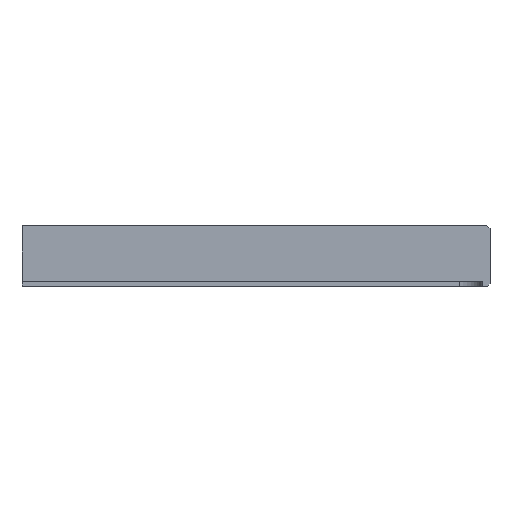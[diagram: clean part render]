
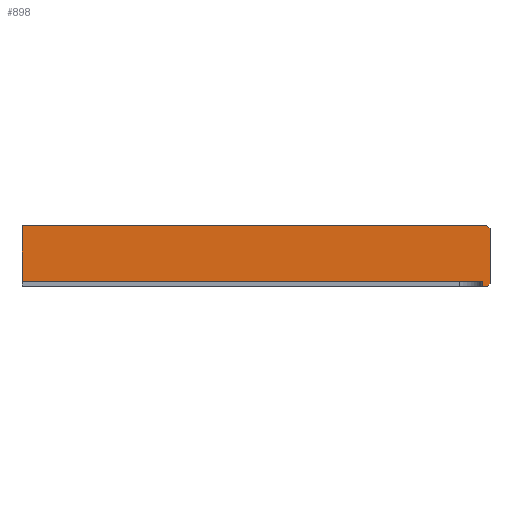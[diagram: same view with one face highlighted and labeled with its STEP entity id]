
A CAD part, front view. The second image highlights one B-rep face of the part: STEP entity #898.
In plain terms, the highlighted planar face has unit normal (0, -1, 0).
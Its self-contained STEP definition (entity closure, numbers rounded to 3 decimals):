
#22 = VERTEX_POINT('',#23);
#23 = CARTESIAN_POINT('',(151.925,134.782,1.6));
#32 = PLANE('',#33);
#33 = AXIS2_PLACEMENT_3D('',#34,#35,#36);
#34 = CARTESIAN_POINT('',(151.925,134.782,-5.));
#35 = DIRECTION('',(-1.,0.,0.));
#36 = DIRECTION('',(0.,1.,0.));
#43 = PLANE('',#44);
#44 = AXIS2_PLACEMENT_3D('',#45,#46,#47);
#45 = CARTESIAN_POINT('',(-40.2,61.728,1.6));
#46 = DIRECTION('',(0.,0.,1.));
#47 = DIRECTION('',(1.,0.,0.));
#54 = EDGE_CURVE('',#22,#55,#57,.T.);
#55 = VERTEX_POINT('',#56);
#56 = CARTESIAN_POINT('',(151.925,134.782,19.747));
#57 = SURFACE_CURVE('',#58,(#62,#69),.PCURVE_S1.);
#58 = LINE('',#59,#60);
#59 = CARTESIAN_POINT('',(151.925,134.782,-5.));
#60 = VECTOR('',#61,1.);
#61 = DIRECTION('',(0.,0.,1.));
#62 = PCURVE('',#32,#63);
#63 = DEFINITIONAL_REPRESENTATION('',(#64),#68);
#64 = LINE('',#65,#66);
#65 = CARTESIAN_POINT('',(0.,0.));
#66 = VECTOR('',#67,1.);
#67 = DIRECTION('',(0.,-1.));
#68 = ( GEOMETRIC_REPRESENTATION_CONTEXT(2) 
PARAMETRIC_REPRESENTATION_CONTEXT() REPRESENTATION_CONTEXT('2D SPACE',''
  ) );
#69 = PCURVE('',#70,#75);
#70 = PLANE('',#71);
#71 = AXIS2_PLACEMENT_3D('',#72,#73,#74);
#72 = CARTESIAN_POINT('',(151.925,134.782,-5.));
#73 = DIRECTION('',(0.,1.,0.));
#74 = DIRECTION('',(1.,0.,0.));
#75 = DEFINITIONAL_REPRESENTATION('',(#76),#80);
#76 = LINE('',#77,#78);
#77 = CARTESIAN_POINT('',(0.,0.));
#78 = VECTOR('',#79,1.);
#79 = DIRECTION('',(0.,-1.));
#80 = ( GEOMETRIC_REPRESENTATION_CONTEXT(2) 
PARAMETRIC_REPRESENTATION_CONTEXT() REPRESENTATION_CONTEXT('2D SPACE',''
  ) );
#97 = PLANE('',#98);
#98 = AXIS2_PLACEMENT_3D('',#99,#100,#101);
#99 = CARTESIAN_POINT('',(151.8,136.61,19.747));
#100 = DIRECTION('',(0.,0.,1.));
#101 = DIRECTION('',(1.,0.,-0.));
#237 = EDGE_CURVE('',#22,#238,#240,.T.);
#238 = VERTEX_POINT('',#239);
#239 = CARTESIAN_POINT('',(301.2,134.782,1.6));
#240 = SURFACE_CURVE('',#241,(#245,#251),.PCURVE_S1.);
#241 = LINE('',#242,#243);
#242 = CARTESIAN_POINT('',(55.863,134.782,1.6));
#243 = VECTOR('',#244,1.);
#244 = DIRECTION('',(1.,0.,0.));
#245 = PCURVE('',#43,#246);
#246 = DEFINITIONAL_REPRESENTATION('',(#247),#250);
#247 = B_SPLINE_CURVE_WITH_KNOTS('',1,(#248,#249),.UNSPECIFIED.,.F.,.F.,
  (2,2),(96.063,245.338),.PIECEWISE_BEZIER_KNOTS.);
#248 = CARTESIAN_POINT('',(192.125,73.053));
#249 = CARTESIAN_POINT('',(341.4,73.053));
#250 = ( GEOMETRIC_REPRESENTATION_CONTEXT(2) 
PARAMETRIC_REPRESENTATION_CONTEXT() REPRESENTATION_CONTEXT('2D SPACE',''
  ) );
#251 = PCURVE('',#70,#252);
#252 = DEFINITIONAL_REPRESENTATION('',(#253),#256);
#253 = B_SPLINE_CURVE_WITH_KNOTS('',1,(#254,#255),.UNSPECIFIED.,.F.,.F.,
  (2,2),(96.063,245.338),.PIECEWISE_BEZIER_KNOTS.);
#254 = CARTESIAN_POINT('',(0.,-6.6));
#255 = CARTESIAN_POINT('',(149.275,-6.6));
#256 = ( GEOMETRIC_REPRESENTATION_CONTEXT(2) 
PARAMETRIC_REPRESENTATION_CONTEXT() REPRESENTATION_CONTEXT('2D SPACE',''
  ) );
#272 = PLANE('',#273);
#273 = AXIS2_PLACEMENT_3D('',#274,#275,#276);
#274 = CARTESIAN_POINT('',(301.2,10.,-1.));
#275 = DIRECTION('',(-1.,0.,0.));
#276 = DIRECTION('',(0.,1.,0.));
#819 = EDGE_CURVE('',#55,#820,#822,.T.);
#820 = VERTEX_POINT('',#821);
#821 = CARTESIAN_POINT('',(302.6,134.782,19.747));
#822 = SURFACE_CURVE('',#823,(#827,#833),.PCURVE_S1.);
#823 = LINE('',#824,#825);
#824 = CARTESIAN_POINT('',(151.863,134.782,19.747));
#825 = VECTOR('',#826,1.);
#826 = DIRECTION('',(1.,0.,0.));
#827 = PCURVE('',#97,#828);
#828 = DEFINITIONAL_REPRESENTATION('',(#829),#832);
#829 = B_SPLINE_CURVE_WITH_KNOTS('',1,(#830,#831),.UNSPECIFIED.,.F.,.F.,
  (2,2),(0.062,150.738),.PIECEWISE_BEZIER_KNOTS.);
#830 = CARTESIAN_POINT('',(0.125,-1.828));
#831 = CARTESIAN_POINT('',(150.8,-1.828));
#832 = ( GEOMETRIC_REPRESENTATION_CONTEXT(2) 
PARAMETRIC_REPRESENTATION_CONTEXT() REPRESENTATION_CONTEXT('2D SPACE',''
  ) );
#833 = PCURVE('',#70,#834);
#834 = DEFINITIONAL_REPRESENTATION('',(#835),#838);
#835 = B_SPLINE_CURVE_WITH_KNOTS('',1,(#836,#837),.UNSPECIFIED.,.F.,.F.,
  (2,2),(0.062,150.738),.PIECEWISE_BEZIER_KNOTS.);
#836 = CARTESIAN_POINT('',(0.,-24.747));
#837 = CARTESIAN_POINT('',(150.675,-24.747));
#838 = ( GEOMETRIC_REPRESENTATION_CONTEXT(2) 
PARAMETRIC_REPRESENTATION_CONTEXT() REPRESENTATION_CONTEXT('2D SPACE',''
  ) );
#856 = PLANE('',#857);
#857 = AXIS2_PLACEMENT_3D('',#858,#859,#860);
#858 = CARTESIAN_POINT('',(303.1,263.219,19.247));
#859 = DIRECTION('',(-0.707,0.,-0.707));
#860 = DIRECTION('',(0.,-1.,-0.));
#898 = ADVANCED_FACE('',(#899),#70,.F.);
#899 = FACE_BOUND('',#900,.F.);
#900 = EDGE_LOOP('',(#901,#902,#903,#904,#925,#951,#977,#1003));
#901 = ORIENTED_EDGE('',*,*,#237,.F.);
#902 = ORIENTED_EDGE('',*,*,#54,.T.);
#903 = ORIENTED_EDGE('',*,*,#819,.T.);
#904 = ORIENTED_EDGE('',*,*,#905,.F.);
#905 = EDGE_CURVE('',#906,#820,#908,.T.);
#906 = VERTEX_POINT('',#907);
#907 = CARTESIAN_POINT('',(303.6,134.782,18.747));
#908 = SURFACE_CURVE('',#909,(#913,#919),.PCURVE_S1.);
#909 = LINE('',#910,#911);
#910 = CARTESIAN_POINT('',(271.368,134.782,
    50.979));
#911 = VECTOR('',#912,1.);
#912 = DIRECTION('',(-0.707,0.,0.707));
#913 = PCURVE('',#70,#914);
#914 = DEFINITIONAL_REPRESENTATION('',(#915),#918);
#915 = B_SPLINE_CURVE_WITH_KNOTS('',1,(#916,#917),.UNSPECIFIED.,.F.,.F.,
  (2,2),(-45.583,-44.169),.PIECEWISE_BEZIER_KNOTS.);
#916 = CARTESIAN_POINT('',(151.675,-23.747));
#917 = CARTESIAN_POINT('',(150.675,-24.747));
#918 = ( GEOMETRIC_REPRESENTATION_CONTEXT(2) 
PARAMETRIC_REPRESENTATION_CONTEXT() REPRESENTATION_CONTEXT('2D SPACE',''
  ) );
#919 = PCURVE('',#856,#920);
#920 = DEFINITIONAL_REPRESENTATION('',(#921),#924);
#921 = B_SPLINE_CURVE_WITH_KNOTS('',1,(#922,#923),.UNSPECIFIED.,.F.,.F.,
  (2,2),(-45.583,-44.169),.PIECEWISE_BEZIER_KNOTS.);
#922 = CARTESIAN_POINT('',(128.438,-0.707));
#923 = CARTESIAN_POINT('',(128.438,0.707));
#924 = ( GEOMETRIC_REPRESENTATION_CONTEXT(2) 
PARAMETRIC_REPRESENTATION_CONTEXT() REPRESENTATION_CONTEXT('2D SPACE',''
  ) );
#925 = ORIENTED_EDGE('',*,*,#926,.F.);
#926 = EDGE_CURVE('',#927,#906,#929,.T.);
#927 = VERTEX_POINT('',#928);
#928 = CARTESIAN_POINT('',(303.6,134.782,0.8));
#929 = SURFACE_CURVE('',#930,(#934,#940),.PCURVE_S1.);
#930 = LINE('',#931,#932);
#931 = CARTESIAN_POINT('',(303.6,134.782,-2.5));
#932 = VECTOR('',#933,1.);
#933 = DIRECTION('',(0.,-0.,1.));
#934 = PCURVE('',#70,#935);
#935 = DEFINITIONAL_REPRESENTATION('',(#936),#939);
#936 = B_SPLINE_CURVE_WITH_KNOTS('',1,(#937,#938),.UNSPECIFIED.,.F.,.F.,
  (2,2),(3.3,21.247),.PIECEWISE_BEZIER_KNOTS.);
#937 = CARTESIAN_POINT('',(151.675,-5.8));
#938 = CARTESIAN_POINT('',(151.675,-23.747));
#939 = ( GEOMETRIC_REPRESENTATION_CONTEXT(2) 
PARAMETRIC_REPRESENTATION_CONTEXT() REPRESENTATION_CONTEXT('2D SPACE',''
  ) );
#940 = PCURVE('',#941,#946);
#941 = PLANE('',#942);
#942 = AXIS2_PLACEMENT_3D('',#943,#944,#945);
#943 = CARTESIAN_POINT('',(303.6,10.,0.));
#944 = DIRECTION('',(-1.,0.,0.));
#945 = DIRECTION('',(0.,1.,0.));
#946 = DEFINITIONAL_REPRESENTATION('',(#947),#950);
#947 = B_SPLINE_CURVE_WITH_KNOTS('',1,(#948,#949),.UNSPECIFIED.,.F.,.F.,
  (2,2),(3.3,21.247),.PIECEWISE_BEZIER_KNOTS.);
#948 = CARTESIAN_POINT('',(124.782,-0.8));
#949 = CARTESIAN_POINT('',(124.782,-18.747));
#950 = ( GEOMETRIC_REPRESENTATION_CONTEXT(2) 
PARAMETRIC_REPRESENTATION_CONTEXT() REPRESENTATION_CONTEXT('2D SPACE',''
  ) );
#951 = ORIENTED_EDGE('',*,*,#952,.T.);
#952 = EDGE_CURVE('',#927,#953,#955,.T.);
#953 = VERTEX_POINT('',#954);
#954 = CARTESIAN_POINT('',(302.8,134.782,0.));
#955 = SURFACE_CURVE('',#956,(#960,#966),.PCURVE_S1.);
#956 = LINE('',#957,#958);
#957 = CARTESIAN_POINT('',(264.031,134.782,-38.769));
#958 = VECTOR('',#959,1.);
#959 = DIRECTION('',(-0.707,0.,-0.707));
#960 = PCURVE('',#70,#961);
#961 = DEFINITIONAL_REPRESENTATION('',(#962),#965);
#962 = B_SPLINE_CURVE_WITH_KNOTS('',1,(#963,#964),.UNSPECIFIED.,.F.,.F.,
  (2,2),(-55.959,-54.827),.PIECEWISE_BEZIER_KNOTS.);
#963 = CARTESIAN_POINT('',(151.675,-5.8));
#964 = CARTESIAN_POINT('',(150.875,-5.));
#965 = ( GEOMETRIC_REPRESENTATION_CONTEXT(2) 
PARAMETRIC_REPRESENTATION_CONTEXT() REPRESENTATION_CONTEXT('2D SPACE',''
  ) );
#966 = PCURVE('',#967,#972);
#967 = PLANE('',#968);
#968 = AXIS2_PLACEMENT_3D('',#969,#970,#971);
#969 = CARTESIAN_POINT('',(303.2,263.219,0.4));
#970 = DIRECTION('',(0.707,0.,-0.707));
#971 = DIRECTION('',(0.,-1.,-0.));
#972 = DEFINITIONAL_REPRESENTATION('',(#973),#976);
#973 = B_SPLINE_CURVE_WITH_KNOTS('',1,(#974,#975),.UNSPECIFIED.,.F.,.F.,
  (2,2),(-55.959,-54.827),.PIECEWISE_BEZIER_KNOTS.);
#974 = CARTESIAN_POINT('',(128.438,-0.566));
#975 = CARTESIAN_POINT('',(128.438,0.566));
#976 = ( GEOMETRIC_REPRESENTATION_CONTEXT(2) 
PARAMETRIC_REPRESENTATION_CONTEXT() REPRESENTATION_CONTEXT('2D SPACE',''
  ) );
#977 = ORIENTED_EDGE('',*,*,#978,.F.);
#978 = EDGE_CURVE('',#979,#953,#981,.T.);
#979 = VERTEX_POINT('',#980);
#980 = CARTESIAN_POINT('',(301.2,134.782,0.));
#981 = SURFACE_CURVE('',#982,(#986,#992),.PCURVE_S1.);
#982 = LINE('',#983,#984);
#983 = CARTESIAN_POINT('',(151.863,134.782,0.));
#984 = VECTOR('',#985,1.);
#985 = DIRECTION('',(1.,0.,0.));
#986 = PCURVE('',#70,#987);
#987 = DEFINITIONAL_REPRESENTATION('',(#988),#991);
#988 = B_SPLINE_CURVE_WITH_KNOTS('',1,(#989,#990),.UNSPECIFIED.,.F.,.F.,
  (2,2),(0.062,150.938),.PIECEWISE_BEZIER_KNOTS.);
#989 = CARTESIAN_POINT('',(0.,-5.));
#990 = CARTESIAN_POINT('',(150.875,-5.));
#991 = ( GEOMETRIC_REPRESENTATION_CONTEXT(2) 
PARAMETRIC_REPRESENTATION_CONTEXT() REPRESENTATION_CONTEXT('2D SPACE',''
  ) );
#992 = PCURVE('',#993,#998);
#993 = PLANE('',#994);
#994 = AXIS2_PLACEMENT_3D('',#995,#996,#997);
#995 = CARTESIAN_POINT('',(151.8,136.61,0.));
#996 = DIRECTION('',(0.,0.,1.));
#997 = DIRECTION('',(1.,0.,-0.));
#998 = DEFINITIONAL_REPRESENTATION('',(#999),#1002);
#999 = B_SPLINE_CURVE_WITH_KNOTS('',1,(#1000,#1001),.UNSPECIFIED.,.F.,
  .F.,(2,2),(0.062,150.938),.PIECEWISE_BEZIER_KNOTS.);
#1000 = CARTESIAN_POINT('',(0.125,-1.828));
#1001 = CARTESIAN_POINT('',(151.,-1.828));
#1002 = ( GEOMETRIC_REPRESENTATION_CONTEXT(2) 
PARAMETRIC_REPRESENTATION_CONTEXT() REPRESENTATION_CONTEXT('2D SPACE',''
  ) );
#1003 = ORIENTED_EDGE('',*,*,#1004,.T.);
#1004 = EDGE_CURVE('',#979,#238,#1005,.T.);
#1005 = SURFACE_CURVE('',#1006,(#1010,#1016),.PCURVE_S1.);
#1006 = LINE('',#1007,#1008);
#1007 = CARTESIAN_POINT('',(301.2,134.782,-3.));
#1008 = VECTOR('',#1009,1.);
#1009 = DIRECTION('',(0.,-0.,1.));
#1010 = PCURVE('',#70,#1011);
#1011 = DEFINITIONAL_REPRESENTATION('',(#1012),#1015);
#1012 = B_SPLINE_CURVE_WITH_KNOTS('',1,(#1013,#1014),.UNSPECIFIED.,.F.,
  .F.,(2,2),(3.,21.547),.PIECEWISE_BEZIER_KNOTS.);
#1013 = CARTESIAN_POINT('',(149.275,-5.));
#1014 = CARTESIAN_POINT('',(149.275,-23.547));
#1015 = ( GEOMETRIC_REPRESENTATION_CONTEXT(2) 
PARAMETRIC_REPRESENTATION_CONTEXT() REPRESENTATION_CONTEXT('2D SPACE',''
  ) );
#1016 = PCURVE('',#272,#1017);
#1017 = DEFINITIONAL_REPRESENTATION('',(#1018),#1021);
#1018 = B_SPLINE_CURVE_WITH_KNOTS('',1,(#1019,#1020),.UNSPECIFIED.,.F.,
  .F.,(2,2),(3.,21.547),.PIECEWISE_BEZIER_KNOTS.);
#1019 = CARTESIAN_POINT('',(124.782,-1.));
#1020 = CARTESIAN_POINT('',(124.782,-19.547));
#1021 = ( GEOMETRIC_REPRESENTATION_CONTEXT(2) 
PARAMETRIC_REPRESENTATION_CONTEXT() REPRESENTATION_CONTEXT('2D SPACE',''
  ) );
